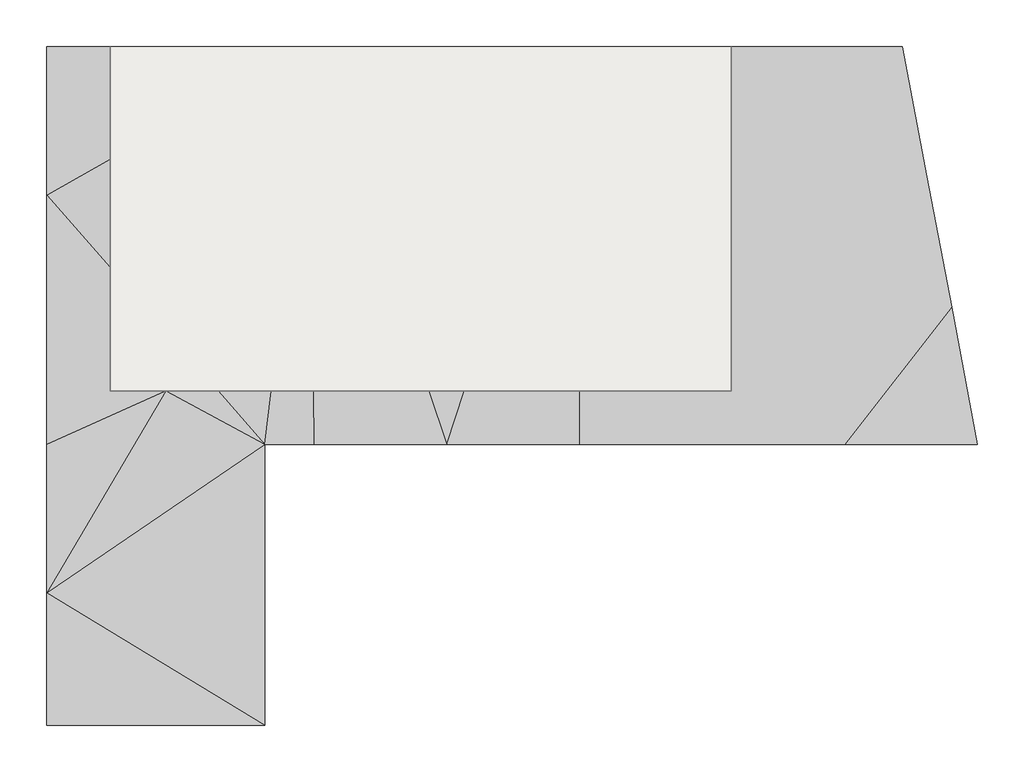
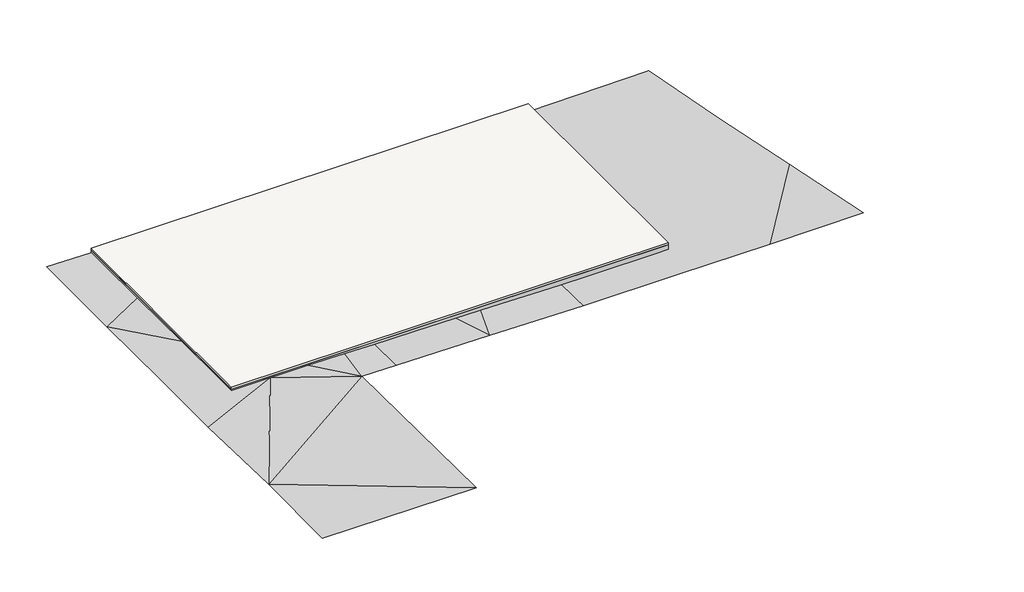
# One storey: 2 proxies, 1 slab.
"""IFC4 building model written with IfcOpenShell, lengths in millimetres."""

from ifc_helpers import new_model, si_unit, frame, origin, place, context, project, spatial, polyline, outline, extrude, triangles, element, save

model = new_model("IFC4")

# Units and contexts
model_context = context("Model", 3, world=origin())
ifc_project = project(units=[si_unit("LENGTHUNIT", "METRE", prefix="MILLI")], contexts=[model_context])

# Site, building, storey
site = spatial("IfcSite", under=ifc_project)
building = spatial("IfcBuilding", under=site)
storey = spatial("IfcBuildingStorey", under=building, Name="Nível 1", Elevation=0.0)

# Proxies
placement = place(None, origin())
element("IfcBuildingElementProxy", 1, Name="Building Element Proxy", at=placement, inside=storey, context=model_context, shape_type="Tessellation", body=[
    triangles([(-32249.998938, 0.0, -219.999998), (-32249.998938, -5600.0000427, -200.0000015), (-32249.998938, -10599.9994995, -169.9999977), (-32249.998938, -14999.9995331, -189.9999942), (-32249.998938, -20600.0007385, -20.0000011), (-32249.998938, -25600.0001953, -70.0000014), (-24020.9082092, -25600.0001953, -70.0000014), (-24020.9082092, -14999.9995331, -180.000005), (-22165.2540344, -14999.9995331, -230.0000054), (-17165.2545776, -14999.9995331, -259.9999911), (-12165.2539581, -14999.9995331, -360.00001), (-7165.2545013, -14999.9995331, -360.00001), (-2165.2541725, -14999.9995331, -360.00001), (2834.7458656, -14999.9995331, -329.999988), (1856.9610718, -9826.0723206, -389.9999957), (928.4805359, -4913.0361603, -420.0000177), (0.0, 0.0, -410.0000104), (-6449.9999039, 0.0, -457.3877429), (-6449.9999039, -2162.2834236, -464.7910701), (-6449.9999039, -12999.9995178, -374.534697), (-7843.2200958, -12999.9995178, -378.6666759), (-12176.5532684, -12999.9995178, -378.6666759), (-16509.886441, -12999.9995178, -292.0), (-17843.2201721, -12999.9995178, -272.0000035), (-22176.5533447, -12999.9995178, -245.9999917), (-23784.787738, -12999.9995178, -202.6666629), (-25771.7780823, -12999.9995178, -184.255323), (-27761.4054749, -12999.9995178, -175.4545521), (-29849.9989197, -12999.9995178, -177.9926057), (-29849.9989197, -11883.2525665, -172.9164803), (-29849.9989197, -8341.4931702, -194.1670363), (-29849.9989197, -4256.0001022, -236.0000025), (-29849.9989197, 0.0, -251.2000013)], [[28, 4, 5], [4, 29, 3], [28, 29, 4], [5, 6, 7], [8, 28, 5], [26, 8, 9], [27, 28, 8], [8, 26, 27], [8, 5, 7], [32, 1, 2], [32, 33, 1], [2, 3, 31], [32, 2, 31], [31, 3, 30], [3, 29, 30], [10, 24, 9], [9, 24, 25], [23, 10, 11], [9, 25, 26], [20, 13, 15], [11, 12, 21], [20, 12, 13], [13, 14, 15], [20, 21, 12], [22, 23, 11], [22, 11, 21], [23, 24, 10], [19, 17, 18], [17, 19, 16], [20, 16, 19], [20, 15, 16]], closed=False),
])
element("IfcBuildingElementProxy", 2, Name="Building Element Proxy", at=placement, inside=storey, context=model_context, shape_type="Tessellation", body=[
    triangles([(-29849.9989197, 0.0, -100.1595295), (-29849.9989197, 0.0, -251.2000013), (-29849.9989197, -4256.0001022, -100.1595295), (-29849.9989197, -4256.0001022, -236.0000025), (-29849.9989197, -8341.4931702, -100.1595295), (-29849.9989197, -8341.4931702, -194.1670363), (-29849.9989197, -11883.2525665, -100.1595295), (-29849.9989197, -11883.2525665, -172.9164803), (-29849.9989197, -12999.9995178, -100.1595295), (-29849.9989197, -12999.9995178, -177.9926057), (-27761.4054749, -12999.9995178, -100.1595295), (-27761.4054749, -12999.9995178, -175.4545521), (-25771.7780823, -12999.9995178, -100.1595295), (-25771.7780823, -12999.9995178, -184.255323), (-23784.787738, -12999.9995178, -100.1595295), (-23784.787738, -12999.9995178, -202.6666629), (-22176.5533447, -12999.9995178, -100.1595295), (-22176.5533447, -12999.9995178, -245.9999917), (-17843.2201721, -12999.9995178, -100.1595295), (-17843.2201721, -12999.9995178, -272.0000035), (-16509.886441, -12999.9995178, -100.1595295), (-16509.886441, -12999.9995178, -292.0), (-12176.5532684, -12999.9995178, -100.1595295), (-12176.5532684, -12999.9995178, -378.6666759), (-7843.2200958, -12999.9995178, -100.1595295), (-7843.2200958, -12999.9995178, -378.6666759), (-6449.9999039, -12999.9995178, -100.1595295), (-6449.9999039, -12999.9995178, -374.534697), (-6449.9999039, -2162.2834236, -100.1595295), (-6449.9999039, -2162.2834236, -464.7910701), (-6449.9999039, 0.0, -100.1595295), (-6449.9999039, 0.0, -457.3877429)], [[1, 4, 2], [1, 3, 4], [3, 6, 4], [3, 5, 6], [5, 8, 6], [5, 7, 8], [7, 10, 8], [7, 9, 10], [9, 12, 10], [9, 11, 12], [11, 14, 12], [11, 13, 14], [13, 16, 14], [13, 15, 16], [15, 18, 16], [15, 17, 18], [17, 20, 18], [17, 19, 20], [19, 22, 20], [19, 21, 22], [21, 24, 22], [21, 23, 24], [23, 26, 24], [23, 25, 26], [25, 28, 26], [25, 27, 28], [27, 30, 28], [27, 29, 30], [29, 32, 30], [29, 31, 32]], closed=False),
    triangles([(-29849.9989197, 0.0, -100.1595295), (-29849.9989197, -12999.9995178, -100.1595295), (-6449.9999039, -12999.9995178, -100.1595295), (-6449.9999039, 0.0, -100.1595295)], [[1, 2, 4], [3, 4, 2]], closed=False),
])

# Slab
element("IfcSlab", 3, ObjectType="Plataforma 2", at=placement, inside=storey, context=model_context, shape_type="SweptSolid", body=[
    extrude(outline(polyline([(-29850.0, 0.0), (-6450.0, 0.0), (-6450.0, -13000.0), (-29850.0, -13000.0), (-29850.0, 0.0)])), frame((0.0, 0.0, -100.0), z_axis=(0.0, 0.0, 1.0), x_axis=(1.0, 0.0, 0.0)), (0.0, 0.0, 1.0), 100.0),
])

save(model, "model.ifc")
